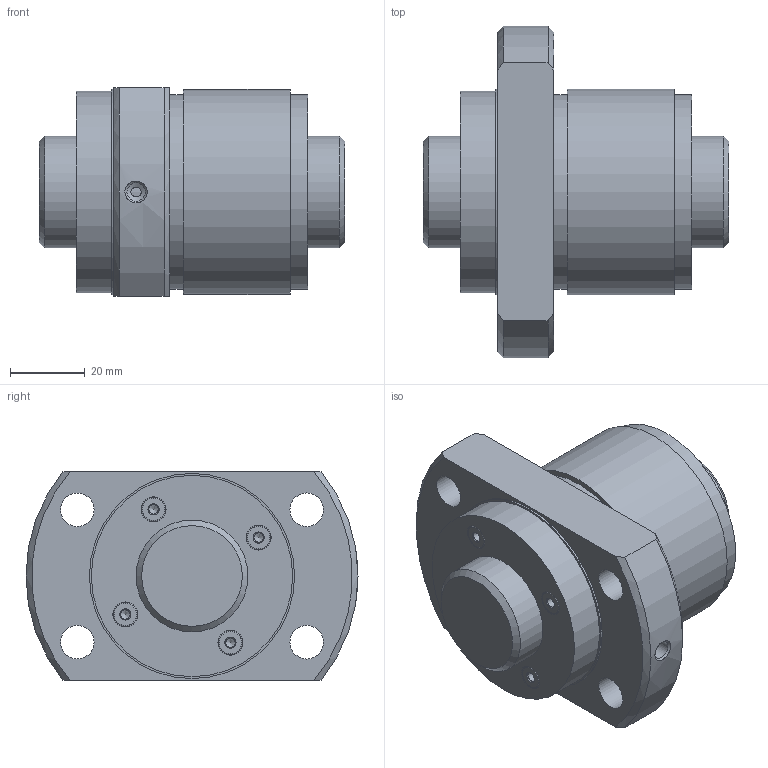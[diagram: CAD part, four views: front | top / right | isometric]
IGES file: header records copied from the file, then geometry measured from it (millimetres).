
Start section: Data from Parasolid IGES Translator 26.0.171, Copyright(c) 2006 Siemens PLM Software. All Rights Reserved.
Global section: file name: WGF3060-1G1+82LC3_N0_13_0_0.igs; native system: By Siemens PLM Incorporated; preprocessor: XPlus GENERIC/IGES 26.0.171; author: Noname; organization: Noname; date: 20250116.062639; units: millimetre
Bounding box: 82 x 89 x 56 mm (x, y, z)
Surface area: 37825.9 mm2 (no closed solid volume)
Topology: 0 solids, 0 shells, 65 faces, 272 edges, 220 vertices
Faces by surface type: revolution 46, extrusion 19
